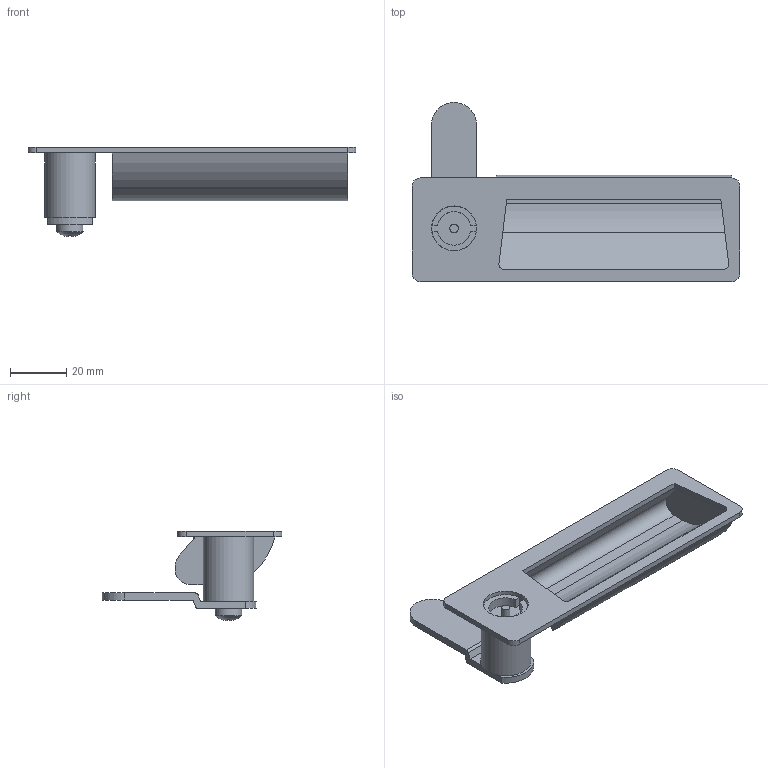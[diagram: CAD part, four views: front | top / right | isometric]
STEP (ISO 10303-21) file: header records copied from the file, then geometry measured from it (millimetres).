
FILE_DESCRIPTION( ( 'STEP AP203' ), '1' );
FILE_NAME( 'C:/Temp/Ganter_Step_05_03_2020/data/3_3/gn731_5/gn731_5_1/Latche with gripping tray GN 731.5-VDE-3-45-1-SG (0-20).stp', '2020-03-12T11:49:26', ( 'License CC BY-ND 4.0' ), ( 'CADENAS' ), ' ', 'PARTsolutions', ' ' );
FILE_SCHEMA( ( 'CONFIG_CONTROL_DESIGN' ) );
Length unit declared in the file: millimetre
Products named in the file (3): Latche with gripping tray GN 731.5-VDE-3-45-1-SG (0-20); _Latche with gripping tray GN 731.5-VDE-3-45-1-SG (0)_1; _Latche with gripping tray GN 731.5-VDE-3-45-1-SG (0-20)_2
Assembly tree (2 placements, depth 2):
  Latche with gripping tray GN 731.5-VDE-3-45-1-SG (0-20)
    _Latche with gripping tray GN 731.5-VDE-3-45-1-SG (0)_1
    _Latche with gripping tray GN 731.5-VDE-3-45-1-SG (0-20)_2
Bounding box: 117 x 64 x 31.88 mm (x, y, z)
Volume: 24471.9 mm3; surface area: 20399.5 mm2
Topology: 2 solids, 2 shells, 96 faces, 248 edges, 162 vertices
Faces by surface type: plane 70, cylinder 25, sphere 1
Full cylindrical faces by diameter (mm): 3 x1, 9.5 x1, 16 x1, 18 x1
Entity records: 2977 total; most frequent: DIRECTION 511, CARTESIAN_POINT 496, ORIENTED_EDGE 478, EDGE_CURVE 239, AXIS2_PLACEMENT_3D 173, LINE 165, VECTOR 165, VERTEX_POINT 158
